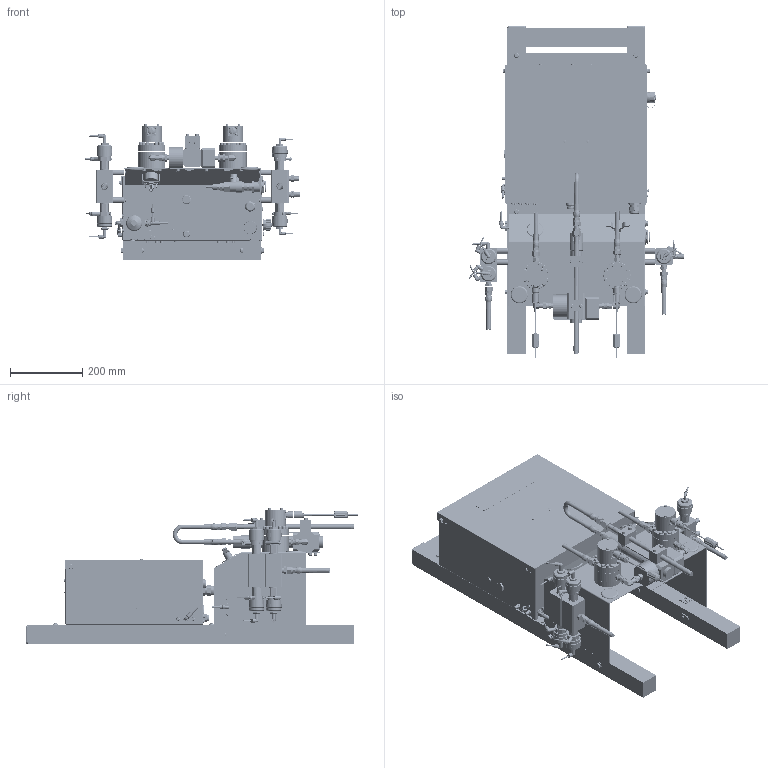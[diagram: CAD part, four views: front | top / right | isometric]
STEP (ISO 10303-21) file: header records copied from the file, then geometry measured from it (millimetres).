
FILE_DESCRIPTION((''),'2;1');
FILE_NAME('24Z013-EN-G_PRT','2020-03-05T07:38:29',('qusrh3'),(''),'CREO PARAMETRIC BY PTC INC, 2019030','CREO PARAMETRIC BY PTC INC, 2019030','');
FILE_SCHEMA(('CONFIG_CONTROL_DESIGN'));
Products named in the file (1): 24Z013-EN-G_PRT
Bounding box: 595.4 x 919.26 x 375.35 mm (x, y, z)
Surface area: 3415333.8 mm2 (no closed solid volume)
Topology: 0 solids, 889 shells, 6780 faces, 21160 edges, 14686 vertices
Faces by surface type: plane 3092, cylinder 1891, cone 1041, torus 323, bspline 307, sphere 93, extrusion 21, revolution 12
Entity records: 266905 total; most frequent: CARTESIAN_POINT 88662, DIRECTION 36305, ORIENTED_EDGE 33982, EDGE_CURVE 21138, VERTEX_POINT 14686, AXIS2_PLACEMENT_3D 12756, VECTOR 10781, LINE 10760
